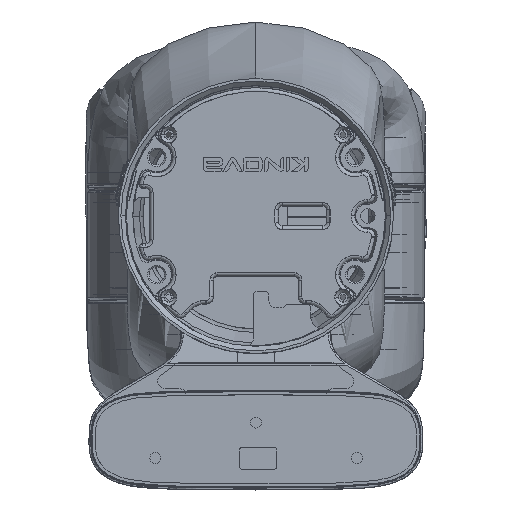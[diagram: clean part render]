
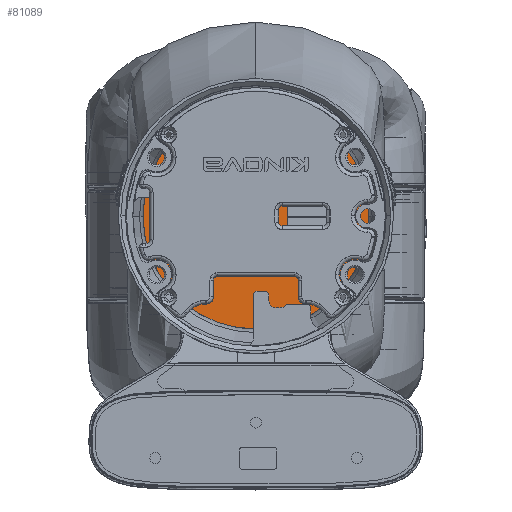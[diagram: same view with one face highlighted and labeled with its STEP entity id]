
A CAD part, top view. The second image highlights one B-rep face of the part: STEP entity #81089.
In plain terms, the highlighted planar face has unit normal (0, 0, 1) as drawn and (0, -1, 0) by its records, which use the part's own axes.
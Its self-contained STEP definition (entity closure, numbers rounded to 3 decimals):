
#17149 = CARTESIAN_POINT ( 'NONE',  ( 0., 0., 0. ) ) ;
#26531 = CARTESIAN_POINT ( 'NONE',  ( 0., 0., 0. ) ) ;
#39475 = CARTESIAN_POINT ( 'NONE',  ( 0., 0., -30.75 ) ) ;
#68748 = PLANE ( 'NONE',  #158618 ) ;
#80017 = CIRCLE ( 'NONE', #208687, 30.75 ) ;
#81089 = ADVANCED_FACE ( 'NONE', ( #267359 ), #68748, .F. ) ;
#88995 = DIRECTION ( 'NONE',  ( 0., 1., 0. ) ) ;
#89324 = CARTESIAN_POINT ( 'NONE',  ( 0., 0., 30.75 ) ) ;
#122876 = AXIS2_PLACEMENT_3D ( 'NONE', #17149, #143739, #164774 ) ;
#124812 = ORIENTED_EDGE ( 'NONE', *, *, #246691, .F. ) ;
#143739 = DIRECTION ( 'NONE',  ( 0., 1., 0. ) ) ;
#154023 = DIRECTION ( 'NONE',  ( 0., 0., 1. ) ) ;
#158618 = AXIS2_PLACEMENT_3D ( 'NONE', #26531, #88995, #154023 ) ;
#164774 = DIRECTION ( 'NONE',  ( 0., 0., 1. ) ) ;
#180141 = VERTEX_POINT ( 'NONE', #89324 ) ;
#186525 = DIRECTION ( 'NONE',  ( 0., 0., 1. ) ) ;
#186914 = EDGE_CURVE ( 'NONE', #180141, #244503, #227575, .T. ) ;
#188323 = DIRECTION ( 'NONE',  ( 0., 1., 0. ) ) ;
#189017 = ORIENTED_EDGE ( 'NONE', *, *, #186914, .F. ) ;
#208687 = AXIS2_PLACEMENT_3D ( 'NONE', #251489, #188323, #186525 ) ;
#227575 = CIRCLE ( 'NONE', #122876, 30.75 ) ;
#244503 = VERTEX_POINT ( 'NONE', #39475 ) ;
#246691 = EDGE_CURVE ( 'NONE', #244503, #180141, #80017, .T. ) ;
#251489 = CARTESIAN_POINT ( 'NONE',  ( 0., 0., 0. ) ) ;
#255652 = EDGE_LOOP ( 'NONE', ( #124812, #189017 ) ) ;
#267359 = FACE_OUTER_BOUND ( 'NONE', #255652, .T. ) ;
